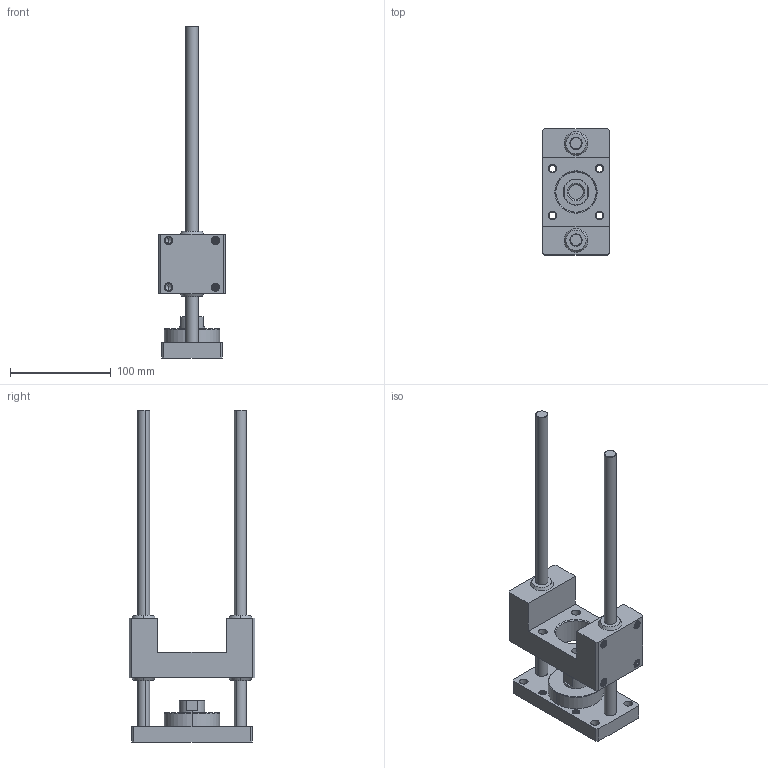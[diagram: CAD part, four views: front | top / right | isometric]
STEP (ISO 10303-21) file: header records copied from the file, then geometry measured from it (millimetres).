
FILE_DESCRIPTION (( 'STEP AP203' ), '1' );
FILE_NAME ('GLC50.0200.STEP', '2005-10-25T15:58:52', ( 'Vesta Automation srl' ), ( 'Vesta Automation srl' ), 'SwSTEP 2.0', 'SolidWorks 2005187', '' );
FILE_SCHEMA (( 'CONFIG_CONTROL_DESIGN' ));
Length unit declared in the file: millimetre
Products named in the file (4): GLC50.0200; SUPPORTING BODY-GLC50; PLATE-GLC50; GUIDE STEMS-GLC50_STROKE 0200
Assembly tree (4 placements, depth 2):
  GLC50.0200
    SUPPORTING BODY-GLC50
    GUIDE STEMS-GLC50_STROKE 0200  x2
    PLATE-GLC50
Bounding box: 66 x 125 x 329.5 mm (x, y, z)
Volume: 476647.7 mm3; surface area: 109345.6 mm2
Topology: 4 solids, 5 shells, 1224 faces, 2672 edges, 1476 vertices
Faces by surface type: cone 944, plane 156, cylinder 124
Entity records: 33216 total; most frequent: DIRECTION 6134, CARTESIAN_POINT 5829, ORIENTED_EDGE 5292, EDGE_CURVE 2646, AXIS2_PLACEMENT_3D 2391, VERTEX_POINT 1470, VECTOR 1352, LINE 1352
